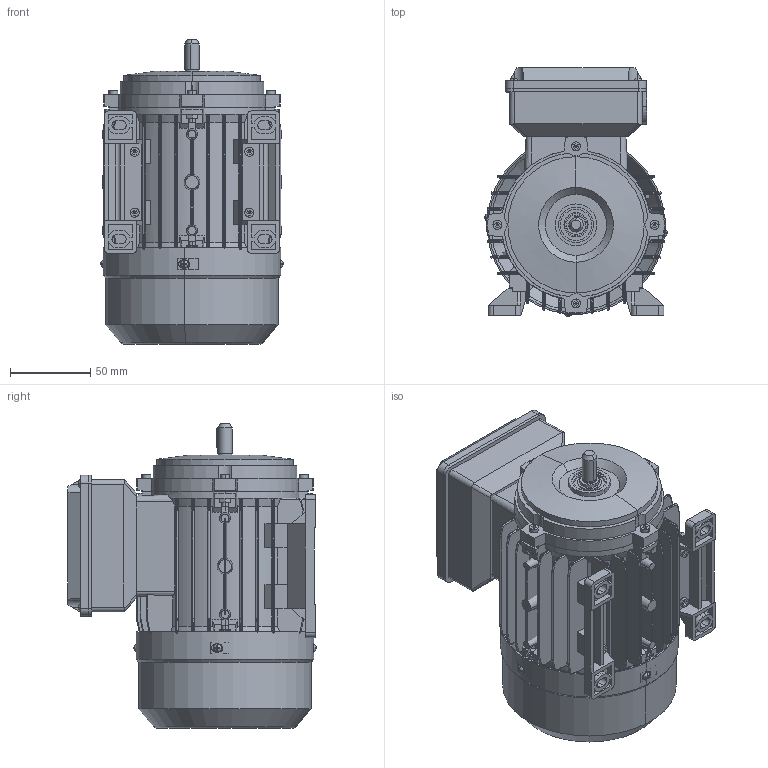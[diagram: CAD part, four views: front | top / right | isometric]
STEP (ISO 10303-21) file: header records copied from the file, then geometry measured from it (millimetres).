
FILE_DESCRIPTION (( 'STEP AP203' ), '1' );
FILE_NAME ('B3.STEP', '2019-09-09T12:57:10', ( '微软中国' ), ( '微软中国' ), 'SwSTEP 2.0', 'SolidWorks 2012', '' );
FILE_SCHEMA (( 'CONFIG_CONTROL_DESIGN' ));
Length unit declared in the file: millimetre
Products named in the file (16): B3; 瑩; 菁褐; 蹟譫; 蹟邡; 蹟隊; 諉盄碟裔; 諉盄碟釱; 瑞欶; 瑞珔; 蚐猾; 粣創; 蛌赽; B3綴裔; B3ヶ裔; 儂褲
Assembly tree (41 placements, depth 2):
  B3
    儂褲
    B3ヶ裔
    B3綴裔
    蛌赽
    粣創
    蚐猾
    瑞珔
    瑞欶
    諉盄碟釱
    諉盄碟裔
    蹟隊  x8
    蹟邡  x12
    蹟譫  x8
    菁褐  x2
    瑩
Bounding box: 113.63 x 154.82 x 189.79 mm (x, y, z)
Volume: 381886.8 mm3; surface area: 325582.5 mm2
Topology: 44 solids, 44 shells, 2425 faces, 6260 edges, 4007 vertices
Faces by surface type: plane 1279, cylinder 843, cone 153, bspline 98, torus 52
Entity records: 65352 total; most frequent: CARTESIAN_POINT 17409, ORIENTED_EDGE 9860, DIRECTION 9058, EDGE_CURVE 4930, VERTEX_POINT 3164, AXIS2_PLACEMENT_3D 3061, LINE 2936, VECTOR 2936
